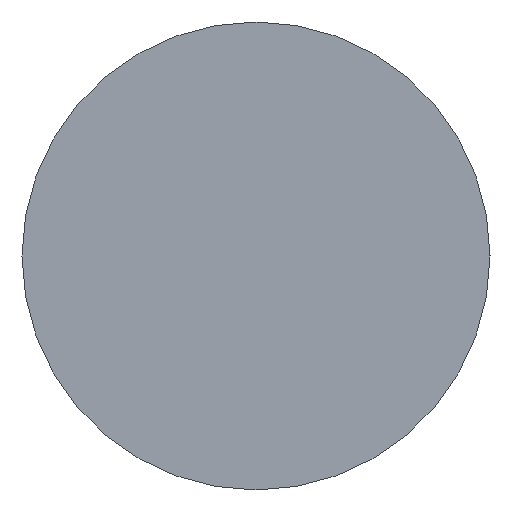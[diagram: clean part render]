
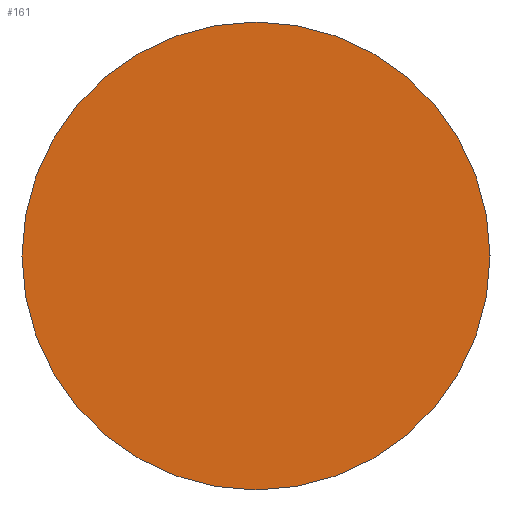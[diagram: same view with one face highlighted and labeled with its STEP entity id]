
A CAD part, left-side view. The second image highlights one B-rep face of the part: STEP entity #161.
In plain terms, the highlighted planar face has unit normal (-1, 0, 0).
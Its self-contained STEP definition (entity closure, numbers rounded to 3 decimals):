
#5 = DIRECTION ( 'NONE',  ( 0., 1., 0. ) ) ;
#10 = CARTESIAN_POINT ( 'NONE',  ( 0., 0., 0. ) ) ;
#13 = CARTESIAN_POINT ( 'NONE',  ( 0., -2., 0. ) ) ;
#25 = ORIENTED_EDGE ( 'NONE', *, *, #56, .F. ) ;
#32 = CARTESIAN_POINT ( 'NONE',  ( 0., 2., 0. ) ) ;
#41 = AXIS2_PLACEMENT_3D ( 'NONE', #10, #153, #150 ) ;
#56 = EDGE_CURVE ( 'NONE', #57, #138, #61, .T. ) ;
#57 = VERTEX_POINT ( 'NONE', #32 ) ;
#61 = CIRCLE ( 'NONE', #272, 2. ) ;
#73 = DIRECTION ( 'NONE',  ( 0., 1., 0. ) ) ;
#93 = PLANE ( 'NONE',  #41 ) ;
#106 = CIRCLE ( 'NONE', #264, 2. ) ;
#116 = ORIENTED_EDGE ( 'NONE', *, *, #233, .F. ) ;
#138 = VERTEX_POINT ( 'NONE', #13 ) ;
#150 = DIRECTION ( 'NONE',  ( 0., -1., 0. ) ) ;
#153 = DIRECTION ( 'NONE',  ( -1., 0., 0. ) ) ;
#154 = CARTESIAN_POINT ( 'NONE',  ( 0., 0., 0. ) ) ;
#161 = ADVANCED_FACE ( 'NONE', ( #175 ), #93, .T. ) ;
#175 = FACE_OUTER_BOUND ( 'NONE', #191, .T. ) ;
#191 = EDGE_LOOP ( 'NONE', ( #25, #116 ) ) ;
#224 = CARTESIAN_POINT ( 'NONE',  ( 0., 0., 0. ) ) ;
#233 = EDGE_CURVE ( 'NONE', #138, #57, #106, .T. ) ;
#250 = DIRECTION ( 'NONE',  ( 1., 0., 0. ) ) ;
#263 = DIRECTION ( 'NONE',  ( 1., 0., 0. ) ) ;
#264 = AXIS2_PLACEMENT_3D ( 'NONE', #224, #263, #73 ) ;
#272 = AXIS2_PLACEMENT_3D ( 'NONE', #154, #250, #5 ) ;
